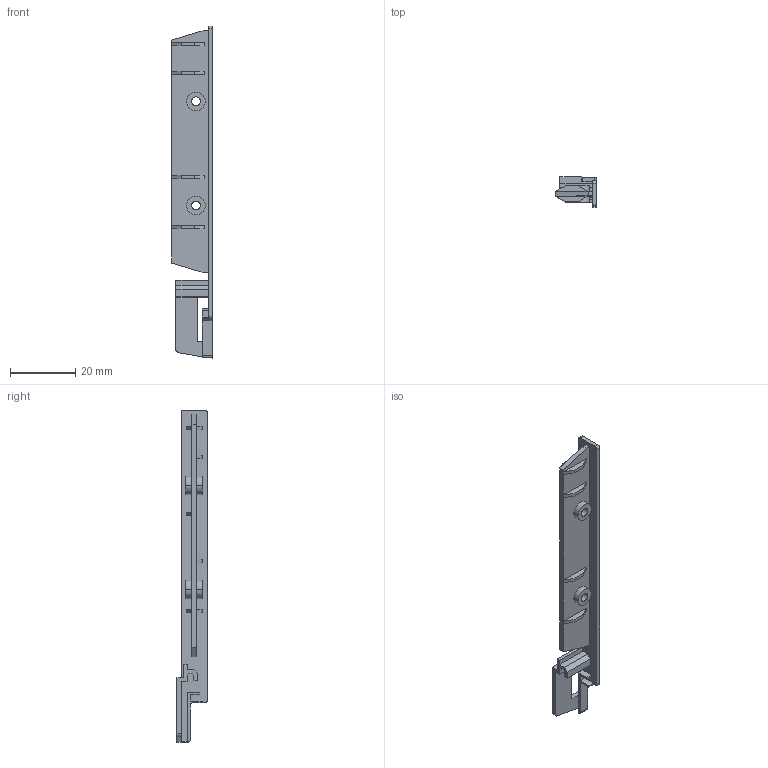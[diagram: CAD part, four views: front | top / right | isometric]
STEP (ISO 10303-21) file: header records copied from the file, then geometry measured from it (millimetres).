
FILE_DESCRIPTION (( 'STEP AP203' ), '1' );
FILE_NAME ('Vionaro V8 Abdeckkappen Innenblende H89 rechts.step', '2022-04-19T11:17:36', ( '' ), ( '' ), 'SwSTEP 2.0', 'SolidWorks 2021', '' );
FILE_SCHEMA (( 'CONFIG_CONTROL_DESIGN' ));
Length unit declared in the file: millimetre
Products named in the file (1): Vionaro V8 Abdeckkappen Innenblende H89 rechts
Bounding box: 12.6 x 9.25 x 102.05 mm (x, y, z)
Volume: 2622.5 mm3; surface area: 4464.9 mm2
Topology: 1 solids, 1 shells, 106 faces, 285 edges, 184 vertices
Faces by surface type: plane 85, cylinder 21
Entity records: 3356 total; most frequent: CARTESIAN_POINT 576, ORIENTED_EDGE 570, DIRECTION 541, EDGE_CURVE 285, LINE 243, VECTOR 243, VERTEX_POINT 184, AXIS2_PLACEMENT_3D 149
